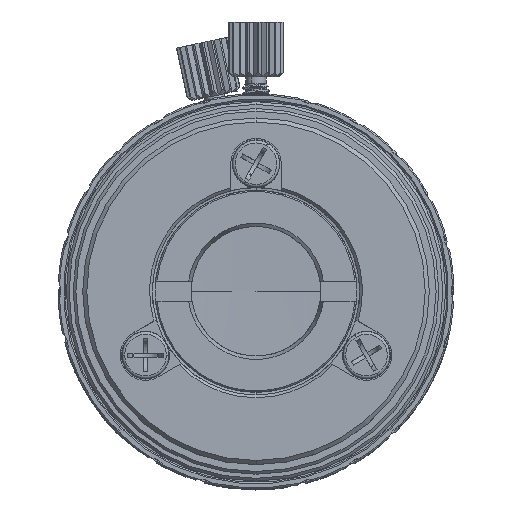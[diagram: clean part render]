
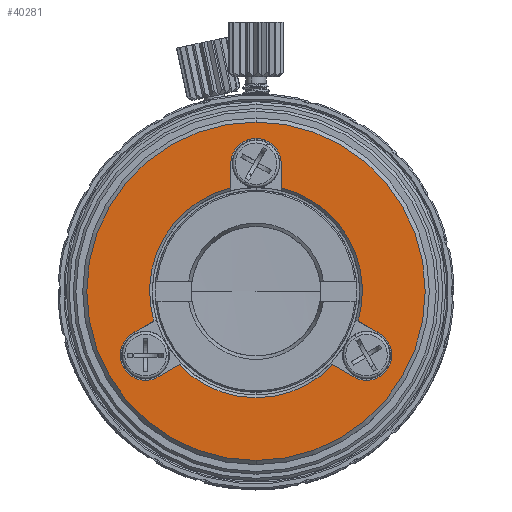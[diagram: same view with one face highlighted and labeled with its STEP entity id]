
A CAD part, top view. The second image highlights one B-rep face of the part: STEP entity #40281.
In plain terms, the highlighted planar face has unit normal (0, 0, 1).
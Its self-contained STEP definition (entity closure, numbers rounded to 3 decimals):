
#39265=CARTESIAN_POINT('',(0.,0.,15.371));
#39266=DIRECTION('',(0.,0.,-1.));
#39267=DIRECTION('',(-0.28,0.96,0.));
#39268=AXIS2_PLACEMENT_3D('',#39265,#39266,#39267);
#39291=CARTESIAN_POINT('',(0.,0.,15.371));
#39292=DIRECTION('',(0.,0.,-1.));
#39293=DIRECTION('',(0.971,-0.237,0.));
#39294=AXIS2_PLACEMENT_3D('',#39291,#39292,#39293);
#39303=CARTESIAN_POINT('',(0.,0.,15.371));
#39304=DIRECTION('',(0.,0.,-1.));
#39305=DIRECTION('',(-0.691,-0.723,0.));
#39306=AXIS2_PLACEMENT_3D('',#39303,#39304,#39305);
#39342=DIRECTION('',(0.5,0.866,0.));
#39343=VECTOR('',#39342,1.773);
#39344=CARTESIAN_POINT('',(-3.073,-9.022,
15.371));
#39345=LINE('',#39344,#39343);
#39346=DIRECTION('',(1.,0.,0.));
#39347=VECTOR('',#39346,1.773);
#39348=CARTESIAN_POINT('',(7.577,-1.85,15.371));
#39349=LINE('',#39348,#39347);
#39350=CARTESIAN_POINT('',(9.35,0.,15.371));
#39351=DIRECTION('',(0.,0.,1.));
#39352=DIRECTION('',(0.,-1.,0.));
#39353=AXIS2_PLACEMENT_3D('',#39350,#39351,#39352);
#39355=DIRECTION('',(-1.,0.,0.));
#39356=VECTOR('',#39355,1.773);
#39357=CARTESIAN_POINT('',(9.35,1.85,15.371));
#39358=LINE('',#39357,#39356);
#39359=DIRECTION('',(-0.5,0.866,0.));
#39360=VECTOR('',#39359,1.773);
#39361=CARTESIAN_POINT('',(-2.187,7.487,
15.371));
#39362=LINE('',#39361,#39360);
#39363=CARTESIAN_POINT('',(-4.675,8.097,15.371));
#39364=DIRECTION('',(0.,0.,1.));
#39365=DIRECTION('',(0.866,0.5,0.));
#39366=AXIS2_PLACEMENT_3D('',#39363,#39364,#39365);
#39368=DIRECTION('',(0.5,-0.866,0.));
#39369=VECTOR('',#39368,1.773);
#39370=CARTESIAN_POINT('',(-6.277,7.172,
15.371));
#39371=LINE('',#39370,#39369);
#39372=DIRECTION('',(-0.5,-0.866,0.));
#39373=VECTOR('',#39372,1.773);
#39374=CARTESIAN_POINT('',(-5.391,-5.637,
15.371));
#39375=LINE('',#39374,#39373);
#39376=CARTESIAN_POINT('',(-4.675,-8.097,15.371));
#39377=DIRECTION('',(0.,0.,1.));
#39378=DIRECTION('',(-0.866,0.5,0.));
#39379=AXIS2_PLACEMENT_3D('',#39376,#39377,#39378);
#39381=CARTESIAN_POINT('',(0.,0.,15.371));
#39382=DIRECTION('',(0.,0.,1.));
#39383=DIRECTION('',(1.,0.,0.));
#39384=AXIS2_PLACEMENT_3D('',#39381,#39382,#39383);
#39394=CARTESIAN_POINT('',(0.,0.,15.371));
#39395=DIRECTION('',(0.,0.,-1.));
#39396=DIRECTION('',(1.,0.,0.));
#39397=AXIS2_PLACEMENT_3D('',#39394,#39395,#39396);
#39574=CARTESIAN_POINT('',(12.4,0.,15.371));
#39576=VERTEX_POINT('',#39574);
#39604=CARTESIAN_POINT('',(-12.4,0.,15.371));
#39606=VERTEX_POINT('',#39604);
#39626=CARTESIAN_POINT('',(9.35,1.85,15.371));
#39627=CARTESIAN_POINT('',(7.577,1.85,15.371));
#39628=VERTEX_POINT('',#39626);
#39629=VERTEX_POINT('',#39627);
#39630=CARTESIAN_POINT('',(7.577,-1.85,15.371));
#39631=CARTESIAN_POINT('',(9.35,-1.85,15.371));
#39632=VERTEX_POINT('',#39630);
#39633=VERTEX_POINT('',#39631);
#39650=CARTESIAN_POINT('',(-6.277,7.172,
15.371));
#39651=VERTEX_POINT('',#39650);
#39652=CARTESIAN_POINT('',(-3.073,9.022,
15.371));
#39653=VERTEX_POINT('',#39652);
#39662=CARTESIAN_POINT('',(-3.073,-9.022,
15.371));
#39663=VERTEX_POINT('',#39662);
#39664=CARTESIAN_POINT('',(-6.277,-7.172,
15.371));
#39665=VERTEX_POINT('',#39664);
#39670=CARTESIAN_POINT('',(-5.391,5.637,
15.371));
#39671=VERTEX_POINT('',#39670);
#39672=CARTESIAN_POINT('',(-2.187,7.487,
15.371));
#39673=VERTEX_POINT('',#39672);
#39680=CARTESIAN_POINT('',(-2.187,-7.487,
15.371));
#39681=VERTEX_POINT('',#39680);
#39682=CARTESIAN_POINT('',(-5.391,-5.637,
15.371));
#39683=VERTEX_POINT('',#39682);
#40250=CARTESIAN_POINT('',(0.,0.,15.371));
#40251=DIRECTION('',(0.,0.,1.));
#40252=DIRECTION('',(-1.,0.,0.));
#40253=AXIS2_PLACEMENT_3D('',#40250,#40251,#40252);
#40254=PLANE('',#40253);
#40256=ORIENTED_EDGE('',*,*,#40255,.F.);
#40258=ORIENTED_EDGE('',*,*,#40257,.T.);
#40259=EDGE_LOOP('',(#40256,#40258));
#40260=FACE_OUTER_BOUND('',#40259,.F.);
#40262=ORIENTED_EDGE('',*,*,#40261,.T.);
#40263=ORIENTED_EDGE('',*,*,#40178,.F.);
#40265=ORIENTED_EDGE('',*,*,#40264,.T.);
#40267=ORIENTED_EDGE('',*,*,#40266,.T.);
#40268=ORIENTED_EDGE('',*,*,#40146,.T.);
#40269=ORIENTED_EDGE('',*,*,#40161,.F.);
#40270=ORIENTED_EDGE('',*,*,#40208,.T.);
#40272=ORIENTED_EDGE('',*,*,#40271,.T.);
#40273=ORIENTED_EDGE('',*,*,#40243,.T.);
#40274=ORIENTED_EDGE('',*,*,#40190,.F.);
#40276=ORIENTED_EDGE('',*,*,#40275,.T.);
#40278=ORIENTED_EDGE('',*,*,#40277,.T.);
#40279=EDGE_LOOP('',(#40262,#40263,#40265,#40267,#40268,#40269,#40270,#40272,
#40273,#40274,#40276,#40278));
#40280=FACE_BOUND('',#40279,.F.);
#40281=ADVANCED_FACE('',(#40260,#40280),#40254,.T.);
#39269=CIRCLE('',#39268,7.8);
#39295=CIRCLE('',#39294,7.8);
#39307=CIRCLE('',#39306,7.8);
#39354=CIRCLE('',#39353,1.85);
#39367=CIRCLE('',#39366,1.85);
#39380=CIRCLE('',#39379,1.85);
#39385=CIRCLE('',#39384,12.4);
#39398=CIRCLE('',#39397,12.4);
#40146=EDGE_CURVE('',#39628,#39629,#39358,.T.);
#40161=EDGE_CURVE('',#39673,#39629,#39269,.T.);
#40178=EDGE_CURVE('',#39632,#39681,#39295,.T.);
#40190=EDGE_CURVE('',#39683,#39671,#39307,.T.);
#40208=EDGE_CURVE('',#39673,#39653,#39362,.T.);
#40243=EDGE_CURVE('',#39651,#39671,#39371,.T.);
#40255=EDGE_CURVE('',#39576,#39606,#39385,.T.);
#40257=EDGE_CURVE('',#39576,#39606,#39398,.T.);
#40261=EDGE_CURVE('',#39663,#39681,#39345,.T.);
#40264=EDGE_CURVE('',#39632,#39633,#39349,.T.);
#40266=EDGE_CURVE('',#39633,#39628,#39354,.T.);
#40271=EDGE_CURVE('',#39653,#39651,#39367,.T.);
#40275=EDGE_CURVE('',#39683,#39665,#39375,.T.);
#40277=EDGE_CURVE('',#39665,#39663,#39380,.T.);
